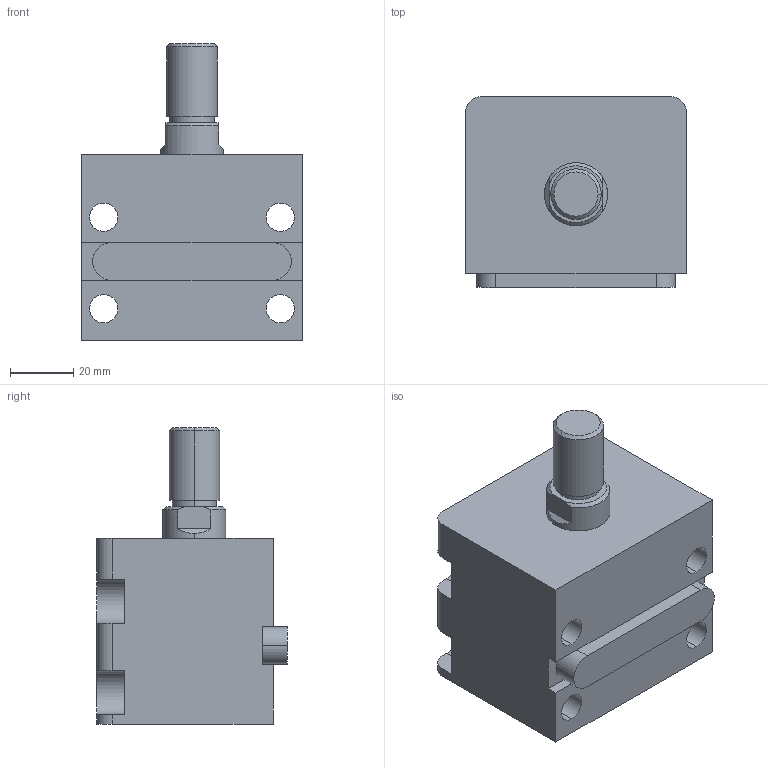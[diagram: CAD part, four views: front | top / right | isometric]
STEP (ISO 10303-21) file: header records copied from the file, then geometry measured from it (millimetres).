
FILE_DESCRIPTION (( 'STEP AP203' ), '1' );
FILE_NAME ('HTB-LA32-5W.STEP', '2019-10-09T06:23:57', ( '微软用户' ), ( '微软中国' ), 'SwSTEP 2.0', 'SolidWorks 2012', '' );
FILE_SCHEMA (( 'CONFIG_CONTROL_DESIGN' ));
Length unit declared in the file: millimetre
Products named in the file (4): HTB-LA32-瑩; HTB-LA32-5掛极; HTB-LA32-5W; HTB-LA32-5W活塞杆
Assembly tree (3 placements, depth 2):
  HTB-LA32-5W
    HTB-LA32-5掛极
    HTB-LA32-5W活塞杆
    HTB-LA32-瑩
Bounding box: 70 x 60.5 x 94 mm (x, y, z)
Volume: 218957.7 mm3; surface area: 43869.2 mm2
Topology: 3 solids, 3 shells, 92 faces, 223 edges, 146 vertices
Faces by surface type: plane 41, cylinder 37, cone 8, torus 6
Entity records: 3159 total; most frequent: DIRECTION 509, CARTESIAN_POINT 495, ORIENTED_EDGE 446, EDGE_CURVE 223, AXIS2_PLACEMENT_3D 196, VERTEX_POINT 146, LINE 117, VECTOR 117
